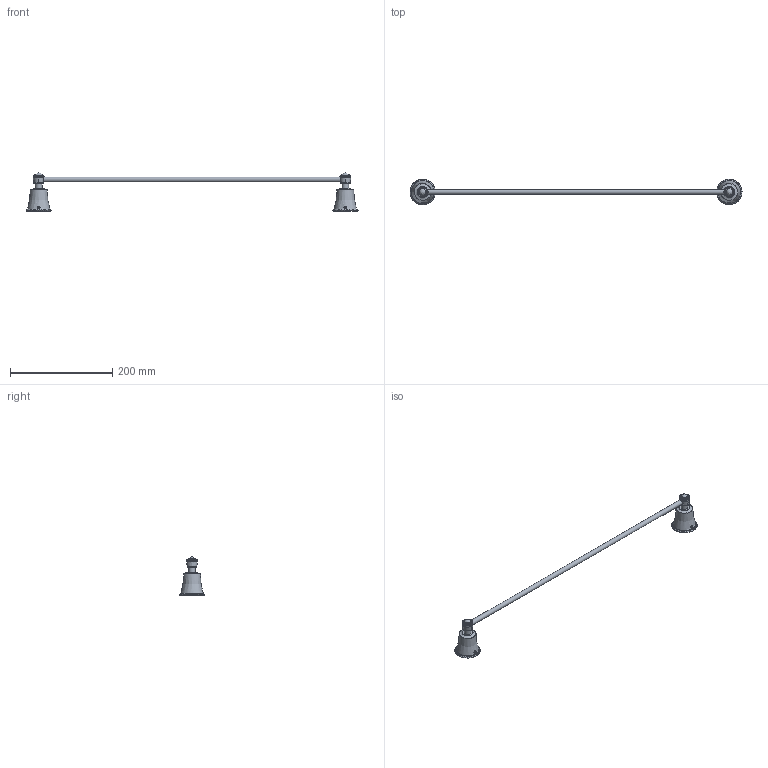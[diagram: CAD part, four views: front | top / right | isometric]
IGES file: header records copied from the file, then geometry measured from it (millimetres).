
Global section: file name: 44d7c36d-77f0-4566-a070-eb2d55a27c44; native system: unknown; preprocessor: unknown; author: unknown; organization: unknown; date: 20191205.100059; units: millimetre
Bounding box: 649.59 x 49.59 x 75 mm (x, y, z)
Volume: 150555.4 mm3; surface area: 43683.5 mm2
Topology: 7 solids, 7 shells, 97 faces, 266 edges, 193 vertices
Faces by surface type: bspline 97
